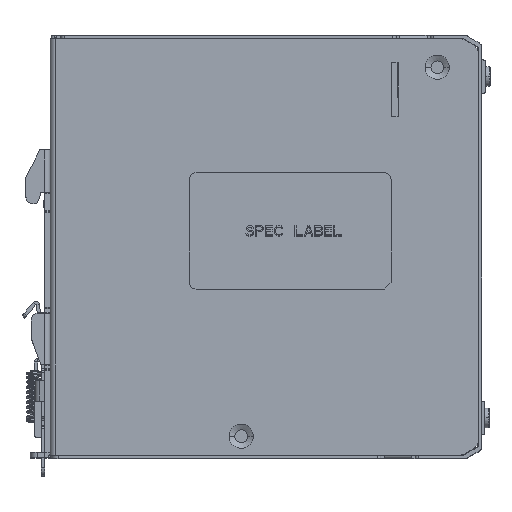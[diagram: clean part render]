
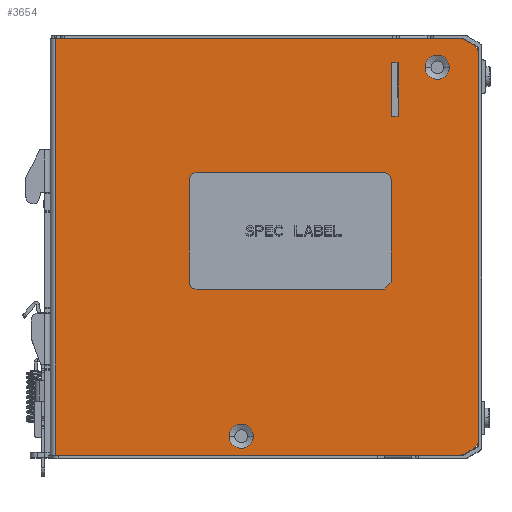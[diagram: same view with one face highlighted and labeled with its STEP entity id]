
A CAD part, top view. The second image highlights one B-rep face of the part: STEP entity #3654.
In plain terms, the highlighted planar face has unit normal (0, 0, 1).
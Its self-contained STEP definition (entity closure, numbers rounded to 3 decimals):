
#15=DIRECTION('',(0.,-1.,0.));
#16=VECTOR('',#15,15.6);
#17=CARTESIAN_POINT('',(98.2,53.4,20.));
#18=LINE('',#17,#16);
#23=DIRECTION('',(1.,0.,0.));
#24=VECTOR('',#23,2.);
#25=CARTESIAN_POINT('',(98.2,37.8,20.));
#26=LINE('',#25,#24);
#30=DIRECTION('',(0.,1.,0.));
#31=VECTOR('',#30,15.6);
#32=CARTESIAN_POINT('',(100.2,37.8,20.));
#33=LINE('',#32,#31);
#37=DIRECTION('',(-1.,0.,0.));
#38=VECTOR('',#37,2.);
#39=CARTESIAN_POINT('',(100.2,53.4,20.));
#40=LINE('',#39,#38);
#44=CARTESIAN_POINT('',(111.6,52.1,20.));
#45=DIRECTION('',(0.,0.,-1.));
#46=DIRECTION('',(-1.,0.,0.));
#47=AXIS2_PLACEMENT_3D('',#44,#45,#46);
#52=CARTESIAN_POINT('',(111.6,52.1,20.));
#53=DIRECTION('',(0.,0.,-1.));
#54=DIRECTION('',(1.,0.,0.));
#55=AXIS2_PLACEMENT_3D('',#52,#53,#54);
#60=CARTESIAN_POINT('',(54.3,-55.7,20.));
#61=DIRECTION('',(0.,0.,-1.));
#62=DIRECTION('',(-1.,0.,0.));
#63=AXIS2_PLACEMENT_3D('',#60,#61,#62);
#68=CARTESIAN_POINT('',(54.3,-55.7,20.));
#69=DIRECTION('',(0.,0.,-1.));
#70=DIRECTION('',(1.,0.,0.));
#71=AXIS2_PLACEMENT_3D('',#68,#69,#70);
#76=DIRECTION('',(-1.,0.,0.));
#77=VECTOR('',#76,118.282);
#78=CARTESIAN_POINT('',(118.282,-61.2,20.));
#79=LINE('',#78,#77);
#83=CARTESIAN_POINT('',(118.282,57.4,20.));
#84=DIRECTION('',(0.,0.,-1.));
#85=DIRECTION('',(0.,1.,0.));
#86=AXIS2_PLACEMENT_3D('',#83,#84,#85);
#91=DIRECTION('',(0.862,-0.508,0.));
#92=VECTOR('',#91,2.69);
#93=CARTESIAN_POINT('',(119.805,59.985,20.));
#94=LINE('',#93,#92);
#98=CARTESIAN_POINT('',(120.6,56.035,20.));
#99=DIRECTION('',(0.,0.,-1.));
#100=DIRECTION('',(0.508,0.862,0.));
#101=AXIS2_PLACEMENT_3D('',#98,#99,#100);
#106=CARTESIAN_POINT('',(120.6,-56.835,20.));
#107=DIRECTION('',(0.,0.,-1.));
#108=DIRECTION('',(1.,0.,0.));
#109=AXIS2_PLACEMENT_3D('',#106,#107,#108);
#114=DIRECTION('',(-0.862,-0.508,0.));
#115=VECTOR('',#114,2.69);
#116=CARTESIAN_POINT('',(122.123,-59.42,20.));
#117=LINE('',#116,#115);
#121=CARTESIAN_POINT('',(118.282,-58.2,20.));
#122=DIRECTION('',(0.,0.,-1.));
#123=DIRECTION('',(0.508,-0.862,0.));
#124=AXIS2_PLACEMENT_3D('',#121,#122,#123);
#436=DIRECTION('',(0.,1.,0.));
#437=VECTOR('',#436,112.869);
#438=CARTESIAN_POINT('',(123.6,-56.835,20.));
#439=LINE('',#438,#437);
#485=DIRECTION('',(-1.,0.,0.));
#486=VECTOR('',#485,118.282);
#487=CARTESIAN_POINT('',(118.282,60.4,20.));
#488=LINE('',#487,#486);
#3047=DIRECTION('',(0.,-1.,0.));
#3048=VECTOR('',#3047,121.6);
#3049=CARTESIAN_POINT('',(0.,60.4,20.));
#3050=LINE('',#3049,#3048);
#3061=CARTESIAN_POINT('',(119.805,-60.785,20.));
#3062=CARTESIAN_POINT('',(118.282,-61.2,20.));
#3063=VERTEX_POINT('',#3061);
#3064=VERTEX_POINT('',#3062);
#3065=CARTESIAN_POINT('',(0.,60.4,20.));
#3066=CARTESIAN_POINT('',(0.,-61.2,20.));
#3067=VERTEX_POINT('',#3065);
#3068=VERTEX_POINT('',#3066);
#3069=CARTESIAN_POINT('',(118.282,60.4,20.));
#3070=VERTEX_POINT('',#3069);
#3071=CARTESIAN_POINT('',(119.805,59.985,20.));
#3072=VERTEX_POINT('',#3071);
#3073=CARTESIAN_POINT('',(122.123,58.62,20.));
#3074=VERTEX_POINT('',#3073);
#3075=CARTESIAN_POINT('',(123.6,56.035,20.));
#3076=VERTEX_POINT('',#3075);
#3077=CARTESIAN_POINT('',(123.6,-56.835,20.));
#3078=VERTEX_POINT('',#3077);
#3079=CARTESIAN_POINT('',(122.123,-59.42,20.));
#3080=VERTEX_POINT('',#3079);
#3449=CARTESIAN_POINT('',(98.2,53.4,20.));
#3450=CARTESIAN_POINT('',(98.2,37.8,20.));
#3451=VERTEX_POINT('',#3449);
#3452=VERTEX_POINT('',#3450);
#3453=CARTESIAN_POINT('',(100.2,37.8,20.));
#3454=VERTEX_POINT('',#3453);
#3455=CARTESIAN_POINT('',(100.2,53.4,20.));
#3456=VERTEX_POINT('',#3455);
#3553=CARTESIAN_POINT('',(108.05,52.1,20.));
#3554=CARTESIAN_POINT('',(115.15,52.1,20.));
#3555=VERTEX_POINT('',#3553);
#3556=VERTEX_POINT('',#3554);
#3561=CARTESIAN_POINT('',(50.75,-55.7,20.));
#3562=CARTESIAN_POINT('',(57.85,-55.7,20.));
#3563=VERTEX_POINT('',#3561);
#3564=VERTEX_POINT('',#3562);
#3605=CARTESIAN_POINT('',(-1.5,-61.2,20.));
#3606=DIRECTION('',(0.,0.,1.));
#3607=DIRECTION('',(0.,-1.,0.));
#3608=AXIS2_PLACEMENT_3D('',#3605,#3606,#3607);
#3609=PLANE('',#3608);
#3611=ORIENTED_EDGE('',*,*,#3610,.T.);
#3613=ORIENTED_EDGE('',*,*,#3612,.F.);
#3615=ORIENTED_EDGE('',*,*,#3614,.F.);
#3617=ORIENTED_EDGE('',*,*,#3616,.T.);
#3619=ORIENTED_EDGE('',*,*,#3618,.T.);
#3621=ORIENTED_EDGE('',*,*,#3620,.T.);
#3623=ORIENTED_EDGE('',*,*,#3622,.F.);
#3625=ORIENTED_EDGE('',*,*,#3624,.T.);
#3627=ORIENTED_EDGE('',*,*,#3626,.T.);
#3629=ORIENTED_EDGE('',*,*,#3628,.T.);
#3630=EDGE_LOOP('',(#3611,#3613,#3615,#3617,#3619,#3621,#3623,#3625,#3627,
#3629));
#3631=FACE_OUTER_BOUND('',#3630,.F.);
#3633=ORIENTED_EDGE('',*,*,#3632,.F.);
#3635=ORIENTED_EDGE('',*,*,#3634,.F.);
#3636=EDGE_LOOP('',(#3633,#3635));
#3637=FACE_BOUND('',#3636,.F.);
#3639=ORIENTED_EDGE('',*,*,#3638,.F.);
#3641=ORIENTED_EDGE('',*,*,#3640,.F.);
#3642=EDGE_LOOP('',(#3639,#3641));
#3643=FACE_BOUND('',#3642,.F.);
#3645=ORIENTED_EDGE('',*,*,#3644,.T.);
#3647=ORIENTED_EDGE('',*,*,#3646,.T.);
#3649=ORIENTED_EDGE('',*,*,#3648,.T.);
#3651=ORIENTED_EDGE('',*,*,#3650,.T.);
#3652=EDGE_LOOP('',(#3645,#3647,#3649,#3651));
#3653=FACE_BOUND('',#3652,.F.);
#48=CIRCLE('',#47,3.55);
#56=CIRCLE('',#55,3.55);
#64=CIRCLE('',#63,3.55);
#72=CIRCLE('',#71,3.55);
#87=CIRCLE('',#86,3.);
#102=CIRCLE('',#101,3.);
#110=CIRCLE('',#109,3.);
#125=CIRCLE('',#124,3.);
#3610=EDGE_CURVE('',#3064,#3068,#79,.T.);
#3612=EDGE_CURVE('',#3067,#3068,#3050,.T.);
#3614=EDGE_CURVE('',#3070,#3067,#488,.T.);
#3616=EDGE_CURVE('',#3070,#3072,#87,.T.);
#3618=EDGE_CURVE('',#3072,#3074,#94,.T.);
#3620=EDGE_CURVE('',#3074,#3076,#102,.T.);
#3622=EDGE_CURVE('',#3078,#3076,#439,.T.);
#3624=EDGE_CURVE('',#3078,#3080,#110,.T.);
#3626=EDGE_CURVE('',#3080,#3063,#117,.T.);
#3628=EDGE_CURVE('',#3063,#3064,#125,.T.);
#3632=EDGE_CURVE('',#3555,#3556,#48,.T.);
#3634=EDGE_CURVE('',#3556,#3555,#56,.T.);
#3638=EDGE_CURVE('',#3563,#3564,#64,.T.);
#3640=EDGE_CURVE('',#3564,#3563,#72,.T.);
#3644=EDGE_CURVE('',#3451,#3452,#18,.T.);
#3646=EDGE_CURVE('',#3452,#3454,#26,.T.);
#3648=EDGE_CURVE('',#3454,#3456,#33,.T.);
#3650=EDGE_CURVE('',#3456,#3451,#40,.T.);
#3654=ADVANCED_FACE('',(#3631,#3637,#3643,#3653),#3609,.T.);
